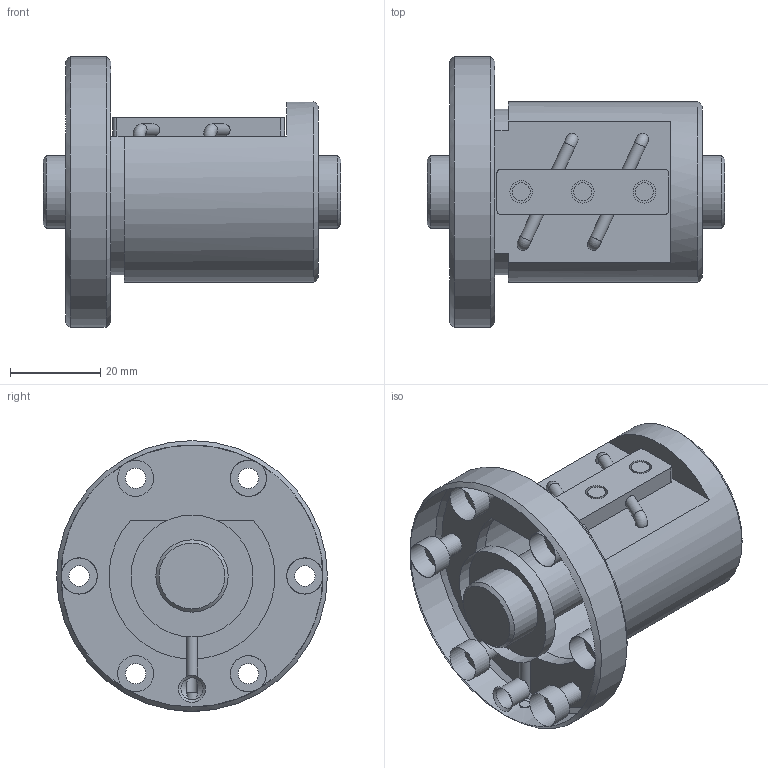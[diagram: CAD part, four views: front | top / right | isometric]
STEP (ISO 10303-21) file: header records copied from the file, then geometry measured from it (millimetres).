
FILE_DESCRIPTION(/* description */ ('STEP AP203'),/* implementation_level */ '2;1');
FILE_NAME(/* name */ 'BNF1605V-5RRG1+66LC0_000_rev',/* time_stamp */ '2024-08-06T07:27:38+02:00',/* author */ ('License CC BY-ND 4.0'),/* organization */ ('CADENAS'),/* preprocessor_version */ 'ST-DEVELOPER v19.3',/* originating_system */ 'PARTsolutions',/* authorisation */ ' ');
FILE_SCHEMA (('CONFIG_CONTROL_DESIGN'));
Length unit declared in the file: millimetre
Products named in the file (3): BNF1605V-5RRG1+66LC0_000_rev; BNF 1605-5RR000 Shaft; BNF 1605-5RR Nut
Assembly tree (2 placements, depth 2):
  BNF1605V-5RRG1+66LC0_000_rev
    BNF 1605-5RR000 Shaft
    BNF 1605-5RR Nut
Bounding box: 66 x 60 x 60 mm (x, y, z)
Volume: 78253.1 mm3; surface area: 21662.3 mm2
Topology: 2 solids, 2 shells, 78 faces, 183 edges, 118 vertices
Faces by surface type: cylinder 37, plane 29, cone 8, torus 4
Full cylindrical faces by diameter (mm): 2.5 x2, 2.665 x4, 4 x3, 4.5 x6, 4.917 x1, 5 x3, 8 x6, 16 x2, 27 x2, 40 x1, 60 x1
Entity records: 2017 total; most frequent: DIRECTION 362, CARTESIAN_POINT 345, ORIENTED_EDGE 240, AXIS2_PLACEMENT_3D 169, EDGE_LOOP 154, FACE_BOUND 154, EDGE_CURVE 120, VERTEX_POINT 98
